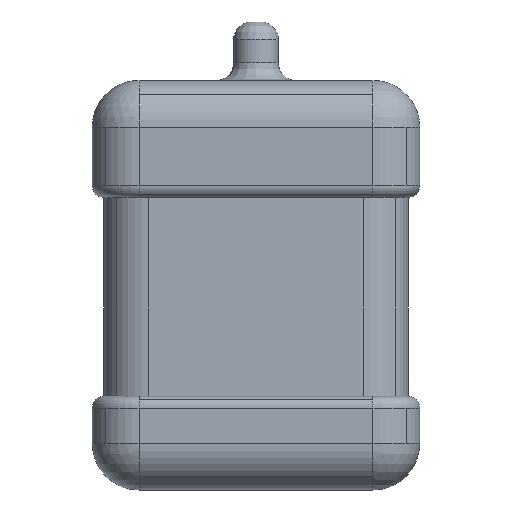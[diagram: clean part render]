
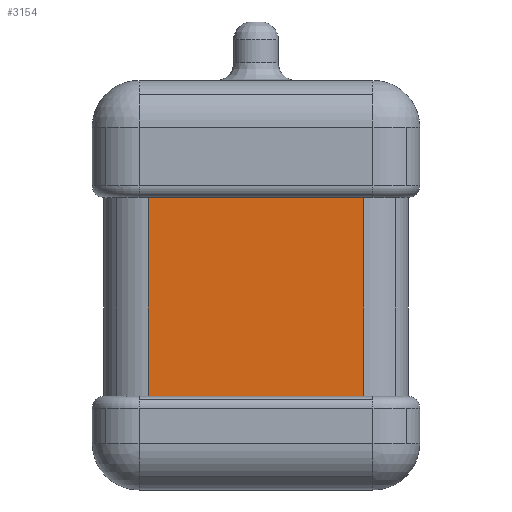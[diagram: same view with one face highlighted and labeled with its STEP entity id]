
A CAD part, front view. The second image highlights one B-rep face of the part: STEP entity #3154.
In plain terms, the highlighted planar face has unit normal (0, -1, 0).
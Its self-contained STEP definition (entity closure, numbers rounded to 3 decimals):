
#151=CARTESIAN_POINT('',(0.287,-0.047,-4.22));
#152=VERTEX_POINT('',#151);
#160=CARTESIAN_POINT('',(0.287,-0.047,-2.52));
#161=VERTEX_POINT('',#160);
#162=CARTESIAN_POINT('',(0.287,-0.047,-4.22));
#163=DIRECTION('',(0.0,0.,1.0));
#164=VECTOR('',#163,1.7);
#165=LINE('',#162,#164);
#166=EDGE_CURVE('',#152,#161,#165,.T.);
#1068=CARTESIAN_POINT('',(2.125,-0.047,-4.22));
#1069=VERTEX_POINT('',#1068);
#1076=CARTESIAN_POINT('',(2.125,-0.047,-4.22));
#1077=DIRECTION('',(-1.0,0.0,0.0));
#1078=VECTOR('',#1077,1.838);
#1079=LINE('',#1076,#1078);
#1080=EDGE_CURVE('',#1069,#152,#1079,.T.);
#1909=CARTESIAN_POINT('',(2.125,-0.047,-2.52));
#1910=VERTEX_POINT('',#1909);
#1911=CARTESIAN_POINT('',(2.125,-0.047,-2.52));
#1912=DIRECTION('',(-1.0,0.0,0.0));
#1913=VECTOR('',#1912,1.838);
#1914=LINE('',#1911,#1913);
#1915=EDGE_CURVE('',#1910,#161,#1914,.T.);
#3040=CARTESIAN_POINT('',(2.125,-0.047,-2.52));
#3041=DIRECTION('',(0.0,0.,-1.0));
#3042=VECTOR('',#3041,1.7);
#3043=LINE('',#3040,#3042);
#3044=EDGE_CURVE('',#1910,#1069,#3043,.T.);
#3143=CARTESIAN_POINT('',(2.506,-0.047,-4.22));
#3144=DIRECTION('',(0.0,-1.0,0.0));
#3145=DIRECTION('',(0.0,0.0,-1.0));
#3146=AXIS2_PLACEMENT_3D('',#3143,#3144,#3145);
#3147=PLANE('',#3146);
#3148=ORIENTED_EDGE('',*,*,#3044,.F.);
#3149=ORIENTED_EDGE('',*,*,#1915,.T.);
#3150=ORIENTED_EDGE('',*,*,#166,.F.);
#3151=ORIENTED_EDGE('',*,*,#1080,.F.);
#3152=EDGE_LOOP('',(#3148,#3149,#3150,#3151));
#3153=FACE_OUTER_BOUND('',#3152,.T.);
#3154=ADVANCED_FACE('',(#3153),#3147,.T.);
